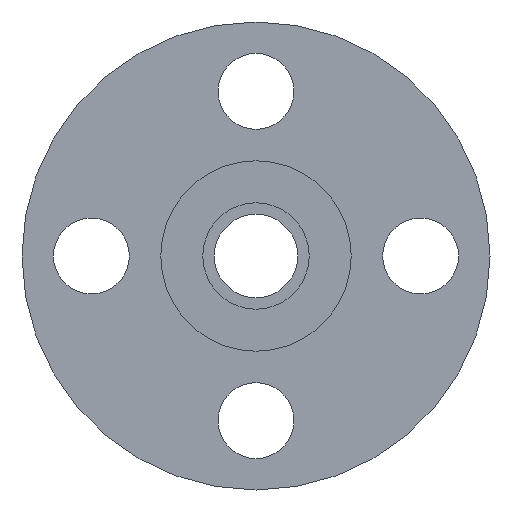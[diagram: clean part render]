
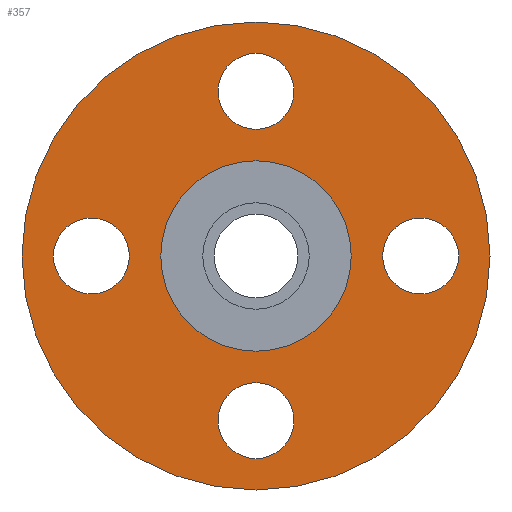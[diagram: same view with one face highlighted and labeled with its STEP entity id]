
A CAD part, left-side view. The second image highlights one B-rep face of the part: STEP entity #357.
In plain terms, the highlighted planar face has unit normal (-1, 0, 0).
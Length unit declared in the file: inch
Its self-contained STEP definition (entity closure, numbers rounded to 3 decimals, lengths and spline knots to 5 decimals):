
#14=FACE_BOUND('',#60,.T.);
#15=FACE_BOUND('',#61,.T.);
#16=FACE_BOUND('',#62,.T.);
#17=FACE_BOUND('',#63,.T.);
#18=FACE_BOUND('',#64,.T.);
#29=PLANE('',#407);
#41=FACE_OUTER_BOUND('',#59,.T.);
#59=EDGE_LOOP('',(#250,#251));
#60=EDGE_LOOP('',(#252));
#61=EDGE_LOOP('',(#253));
#62=EDGE_LOOP('',(#254));
#63=EDGE_LOOP('',(#255));
#64=EDGE_LOOP('',(#256,#257));
#110=CIRCLE('',#392,0.375);
#112=CIRCLE('',#395,0.375);
#114=CIRCLE('',#398,0.375);
#116=CIRCLE('',#401,0.375);
#117=CIRCLE('',#403,2.31);
#118=CIRCLE('',#404,2.31);
#121=CIRCLE('',#408,0.94);
#122=CIRCLE('',#409,0.94);
#146=VERTEX_POINT('',#569);
#148=VERTEX_POINT('',#575);
#150=VERTEX_POINT('',#581);
#152=VERTEX_POINT('',#587);
#153=VERTEX_POINT('',#591);
#154=VERTEX_POINT('',#592);
#157=VERTEX_POINT('',#601);
#158=VERTEX_POINT('',#602);
#183=EDGE_CURVE('',#146,#146,#110,.T.);
#186=EDGE_CURVE('',#148,#148,#112,.T.);
#189=EDGE_CURVE('',#150,#150,#114,.T.);
#192=EDGE_CURVE('',#152,#152,#116,.T.);
#193=EDGE_CURVE('',#153,#154,#117,.T.);
#194=EDGE_CURVE('',#154,#153,#118,.T.);
#198=EDGE_CURVE('',#157,#158,#121,.T.);
#199=EDGE_CURVE('',#158,#157,#122,.T.);
#250=ORIENTED_EDGE('',*,*,#193,.T.);
#251=ORIENTED_EDGE('',*,*,#194,.T.);
#252=ORIENTED_EDGE('',*,*,#183,.T.);
#253=ORIENTED_EDGE('',*,*,#186,.T.);
#254=ORIENTED_EDGE('',*,*,#189,.T.);
#255=ORIENTED_EDGE('',*,*,#192,.T.);
#256=ORIENTED_EDGE('',*,*,#198,.F.);
#257=ORIENTED_EDGE('',*,*,#199,.F.);
#357=ADVANCED_FACE('',(#41,#14,#15,#16,#17,#18),#29,.T.);
#392=AXIS2_PLACEMENT_3D('',#571,#451,#452);
#395=AXIS2_PLACEMENT_3D('',#577,#458,#459);
#398=AXIS2_PLACEMENT_3D('',#583,#465,#466);
#401=AXIS2_PLACEMENT_3D('',#589,#472,#473);
#403=AXIS2_PLACEMENT_3D('',#593,#476,#477);
#404=AXIS2_PLACEMENT_3D('',#594,#478,#479);
#407=AXIS2_PLACEMENT_3D('',#600,#485,#486);
#408=AXIS2_PLACEMENT_3D('',#603,#487,#488);
#409=AXIS2_PLACEMENT_3D('',#604,#489,#490);
#451=DIRECTION('center_axis',(1.,0.,0.));
#452=DIRECTION('ref_axis',(0.,-1.,0.));
#458=DIRECTION('center_axis',(1.,0.,0.));
#459=DIRECTION('ref_axis',(0.,0.,-1.));
#465=DIRECTION('center_axis',(1.,0.,0.));
#466=DIRECTION('ref_axis',(0.,1.,0.));
#472=DIRECTION('center_axis',(1.,0.,0.));
#473=DIRECTION('ref_axis',(0.,0.,1.));
#476=DIRECTION('center_axis',(-1.,0.,0.));
#477=DIRECTION('ref_axis',(0.,0.,1.));
#478=DIRECTION('center_axis',(-1.,0.,0.));
#479=DIRECTION('ref_axis',(0.,0.,1.));
#485=DIRECTION('center_axis',(-1.,0.,0.));
#486=DIRECTION('ref_axis',(0.,0.,1.));
#487=DIRECTION('center_axis',(-1.,0.,0.));
#488=DIRECTION('ref_axis',(0.,0.,1.));
#489=DIRECTION('center_axis',(-1.,0.,0.));
#490=DIRECTION('ref_axis',(0.,0.,1.));
#569=CARTESIAN_POINT('',(-0.62,2.,0.));
#571=CARTESIAN_POINT('Origin',(-0.62,1.625,0.));
#575=CARTESIAN_POINT('',(-0.62,0.,2.));
#577=CARTESIAN_POINT('Origin',(-0.62,0.,
1.625));
#581=CARTESIAN_POINT('',(-0.62,-2.,0.));
#583=CARTESIAN_POINT('Origin',(-0.62,-1.625,0.));
#587=CARTESIAN_POINT('',(-0.62,0.,-2.));
#589=CARTESIAN_POINT('Origin',(-0.62,0.,-1.625));
#591=CARTESIAN_POINT('',(-0.62,0.,2.31));
#592=CARTESIAN_POINT('',(-0.62,0.,-2.31));
#593=CARTESIAN_POINT('Origin',(-0.62,0.,0.));
#594=CARTESIAN_POINT('Origin',(-0.62,0.,0.));
#600=CARTESIAN_POINT('Origin',(-0.62,0.,1.625));
#601=CARTESIAN_POINT('',(-0.62,0.,0.94));
#602=CARTESIAN_POINT('',(-0.62,0.,-0.94));
#603=CARTESIAN_POINT('Origin',(-0.62,0.,0.));
#604=CARTESIAN_POINT('Origin',(-0.62,0.,0.));
